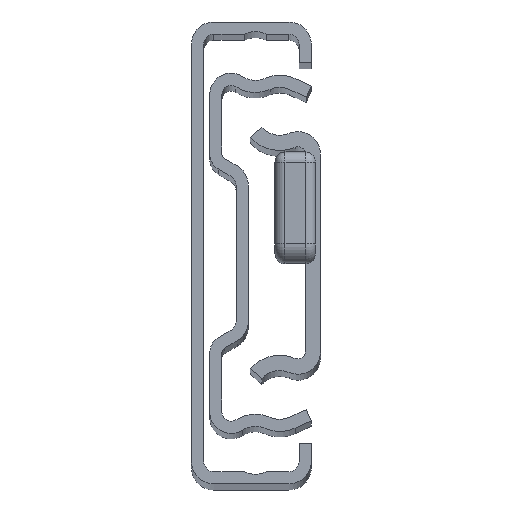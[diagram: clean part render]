
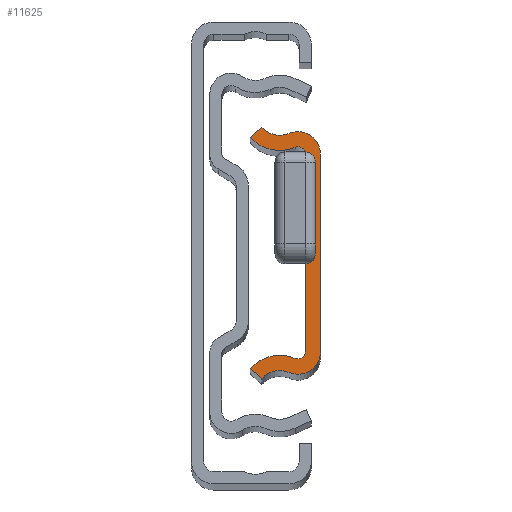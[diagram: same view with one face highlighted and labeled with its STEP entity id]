
A CAD part, top view. The second image highlights one B-rep face of the part: STEP entity #11625.
In plain terms, the highlighted planar face has unit normal (0, 0, 1).
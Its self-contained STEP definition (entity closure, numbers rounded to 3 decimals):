
#378 = DIRECTION ( 'NONE',  ( -1., 0., 0. ) ) ;
#608 = AXIS2_PLACEMENT_3D ( 'NONE', #6618, #24494, #17673 ) ;
#652 = EDGE_CURVE ( 'NONE', #8523, #18230, #12356, .T. ) ;
#987 = CARTESIAN_POINT ( 'NONE',  ( 1.95, 9.725, 0. ) ) ;
#1202 = DIRECTION ( 'NONE',  ( -1., 0., 0. ) ) ;
#1365 = DIRECTION ( 'NONE',  ( 0., 0., 1. ) ) ;
#1382 = AXIS2_PLACEMENT_3D ( 'NONE', #7457, #24561, #18215 ) ;
#1479 = EDGE_CURVE ( 'NONE', #26606, #12294, #14020, .T. ) ;
#1680 = CARTESIAN_POINT ( 'NONE',  ( -3.45, -11.377, 0. ) ) ;
#2091 = CARTESIAN_POINT ( 'NONE',  ( 0.36, 11.777, 0. ) ) ;
#2349 = ORIENTED_EDGE ( 'NONE', *, *, #16191, .T. ) ;
#3464 = CARTESIAN_POINT ( 'NONE',  ( 1.224, 9.725, 0. ) ) ;
#3621 = LINE ( 'NONE', #16909, #25447 ) ;
#4076 = DIRECTION ( 'NONE',  ( 0.745, -0.667, 0. ) ) ;
#4251 = DIRECTION ( 'NONE',  ( 1., 0., 0. ) ) ;
#4585 = DIRECTION ( 'NONE',  ( 0., 0., 1. ) ) ;
#4687 = CARTESIAN_POINT ( 'NONE',  ( -0.564, 13.97, 0. ) ) ;
#4975 = EDGE_CURVE ( 'NONE', #19529, #11442, #8716, .T. ) ;
#4999 = CARTESIAN_POINT ( 'NONE',  ( -3.45, 11.377, 0. ) ) ;
#5657 = DIRECTION ( 'NONE',  ( -1., 0., 0. ) ) ;
#5717 = AXIS2_PLACEMENT_3D ( 'NONE', #9816, #16203, #1202 ) ;
#5721 = CARTESIAN_POINT ( 'NONE',  ( 0.942, 10.394, 0. ) ) ;
#5909 = DIRECTION ( 'NONE',  ( 0., -1., 0. ) ) ;
#5977 = VERTEX_POINT ( 'NONE', #14393 ) ;
#6039 = CIRCLE ( 'NONE', #27412, 2.226 ) ;
#6492 = EDGE_CURVE ( 'NONE', #25246, #19529, #6039, .T. ) ;
#6528 = CARTESIAN_POINT ( 'NONE',  ( 3.45, 9.725, 0. ) ) ;
#6572 = ORIENTED_EDGE ( 'NONE', *, *, #18520, .T. ) ;
#6618 = CARTESIAN_POINT ( 'NONE',  ( -0.564, -13.97, 0. ) ) ;
#6712 = PLANE ( 'NONE',  #608 ) ;
#7102 = AXIS2_PLACEMENT_3D ( 'NONE', #9679, #18436, #20633 ) ;
#7457 = CARTESIAN_POINT ( 'NONE',  ( 1.224, 9.725, 0. ) ) ;
#7711 = ORIENTED_EDGE ( 'NONE', *, *, #15020, .T. ) ;
#7755 = CIRCLE ( 'NONE', #12661, 3.88 ) ;
#8019 = CARTESIAN_POINT ( 'NONE',  ( 1.95, -9.725, 0. ) ) ;
#8153 = ORIENTED_EDGE ( 'NONE', *, *, #26834, .T. ) ;
#8224 = ORIENTED_EDGE ( 'NONE', *, *, #1479, .T. ) ;
#8345 = CIRCLE ( 'NONE', #1382, 0.726 ) ;
#8346 = ORIENTED_EDGE ( 'NONE', *, *, #652, .T. ) ;
#8434 = CARTESIAN_POINT ( 'NONE',  ( 0.36, -11.777, 0. ) ) ;
#8523 = VERTEX_POINT ( 'NONE', #2091 ) ;
#8627 = CIRCLE ( 'NONE', #18283, 0.726 ) ;
#8716 = LINE ( 'NONE', #24725, #15874 ) ;
#9576 = CARTESIAN_POINT ( 'NONE',  ( -0.564, -13.97, 0. ) ) ;
#9679 = CARTESIAN_POINT ( 'NONE',  ( -0.564, -13.97, 0. ) ) ;
#9816 = CARTESIAN_POINT ( 'NONE',  ( -0.564, 13.97, 0. ) ) ;
#10150 = CARTESIAN_POINT ( 'NONE',  ( 3.45, -9.725, 0. ) ) ;
#10941 = EDGE_CURVE ( 'NONE', #11442, #8523, #21178, .T. ) ;
#11254 = ORIENTED_EDGE ( 'NONE', *, *, #4975, .T. ) ;
#11442 = VERTEX_POINT ( 'NONE', #6528 ) ;
#11601 = ORIENTED_EDGE ( 'NONE', *, *, #15105, .T. ) ;
#11625 = ADVANCED_FACE ( 'Face2', ( #14315 ), #6712, .T. ) ;
#11658 = DIRECTION ( 'NONE',  ( 0., 1., 0. ) ) ;
#11889 = CARTESIAN_POINT ( 'NONE',  ( 1.224, -9.725, 0. ) ) ;
#11939 = AXIS2_PLACEMENT_3D ( 'NONE', #3464, #18707, #5657 ) ;
#12075 = CIRCLE ( 'NONE', #20946, 3.88 ) ;
#12294 = VERTEX_POINT ( 'NONE', #17831 ) ;
#12356 = CIRCLE ( 'NONE', #5717, 2.38 ) ;
#12661 = AXIS2_PLACEMENT_3D ( 'NONE', #9576, #18141, #17554 ) ;
#12734 = ORIENTED_EDGE ( 'NONE', *, *, #6492, .T. ) ;
#12765 = VERTEX_POINT ( 'NONE', #987 ) ;
#13574 = VERTEX_POINT ( 'NONE', #5721 ) ;
#13953 = CIRCLE ( 'NONE', #7102, 2.38 ) ;
#14020 = LINE ( 'NONE', #1680, #18414 ) ;
#14315 = FACE_OUTER_BOUND ( 'NONE', #21728, .T. ) ;
#14393 = CARTESIAN_POINT ( 'NONE',  ( 0.942, -10.394, 0. ) ) ;
#15020 = EDGE_CURVE ( 'NONE', #16355, #13574, #12075, .T. ) ;
#15022 = VECTOR ( 'NONE', #5909, 1000. ) ;
#15105 = EDGE_CURVE ( 'NONE', #13574, #12765, #8345, .T. ) ;
#15694 = CARTESIAN_POINT ( 'NONE',  ( -2.333, 12.378, 0. ) ) ;
#15874 = VECTOR ( 'NONE', #11658, 1000. ) ;
#16191 = EDGE_CURVE ( 'NONE', #12294, #25246, #13953, .T. ) ;
#16203 = DIRECTION ( 'NONE',  ( 0., 0., -1. ) ) ;
#16355 = VERTEX_POINT ( 'NONE', #4999 ) ;
#16909 = CARTESIAN_POINT ( 'NONE',  ( -3.45, 11.377, 0. ) ) ;
#17554 = DIRECTION ( 'NONE',  ( 1., 0., 0. ) ) ;
#17673 = DIRECTION ( 'NONE',  ( 1., 0., 0. ) ) ;
#17831 = CARTESIAN_POINT ( 'NONE',  ( -2.333, -12.378, 0. ) ) ;
#18141 = DIRECTION ( 'NONE',  ( 0., 0., 1. ) ) ;
#18215 = DIRECTION ( 'NONE',  ( -1., 0., 0. ) ) ;
#18230 = VERTEX_POINT ( 'NONE', #15694 ) ;
#18283 = AXIS2_PLACEMENT_3D ( 'NONE', #28198, #23461, #4251 ) ;
#18414 = VECTOR ( 'NONE', #4076, 1000. ) ;
#18436 = DIRECTION ( 'NONE',  ( 0., 0., -1. ) ) ;
#18520 = EDGE_CURVE ( 'NONE', #18230, #16355, #3621, .T. ) ;
#18707 = DIRECTION ( 'NONE',  ( 0., 0., 1. ) ) ;
#19529 = VERTEX_POINT ( 'NONE', #10150 ) ;
#20278 = VERTEX_POINT ( 'NONE', #23689 ) ;
#20633 = DIRECTION ( 'NONE',  ( 1., 0., 0. ) ) ;
#20946 = AXIS2_PLACEMENT_3D ( 'NONE', #4687, #4585, #378 ) ;
#21178 = CIRCLE ( 'NONE', #11939, 2.226 ) ;
#21728 = EDGE_LOOP ( 'NONE', ( #2349, #12734, #11254, #25874, #8346, #6572, #7711, #11601, #24871, #24709, #8153, #8224 ) ) ;
#23461 = DIRECTION ( 'NONE',  ( 0., 0., -1. ) ) ;
#23689 = CARTESIAN_POINT ( 'NONE',  ( 1.95, -9.725, 0. ) ) ;
#23824 = EDGE_CURVE ( 'NONE', #20278, #5977, #8627, .T. ) ;
#24223 = CARTESIAN_POINT ( 'NONE',  ( -3.45, -11.377, 0. ) ) ;
#24494 = DIRECTION ( 'NONE',  ( 0., 0., 1. ) ) ;
#24561 = DIRECTION ( 'NONE',  ( 0., 0., -1. ) ) ;
#24610 = LINE ( 'NONE', #8019, #15022 ) ;
#24709 = ORIENTED_EDGE ( 'NONE', *, *, #23824, .T. ) ;
#24725 = CARTESIAN_POINT ( 'NONE',  ( 3.45, -9.725, 0. ) ) ;
#24871 = ORIENTED_EDGE ( 'NONE', *, *, #25644, .T. ) ;
#25246 = VERTEX_POINT ( 'NONE', #8434 ) ;
#25447 = VECTOR ( 'NONE', #25695, 1000. ) ;
#25644 = EDGE_CURVE ( 'NONE', #12765, #20278, #24610, .T. ) ;
#25695 = DIRECTION ( 'NONE',  ( -0.745, -0.667, 0. ) ) ;
#25874 = ORIENTED_EDGE ( 'NONE', *, *, #10941, .T. ) ;
#26606 = VERTEX_POINT ( 'NONE', #24223 ) ;
#26834 = EDGE_CURVE ( 'NONE', #5977, #26606, #7755, .T. ) ;
#27412 = AXIS2_PLACEMENT_3D ( 'NONE', #11889, #1365, #27432 ) ;
#27432 = DIRECTION ( 'NONE',  ( 1., 0., 0. ) ) ;
#28198 = CARTESIAN_POINT ( 'NONE',  ( 1.224, -9.725, 0. ) ) ;
